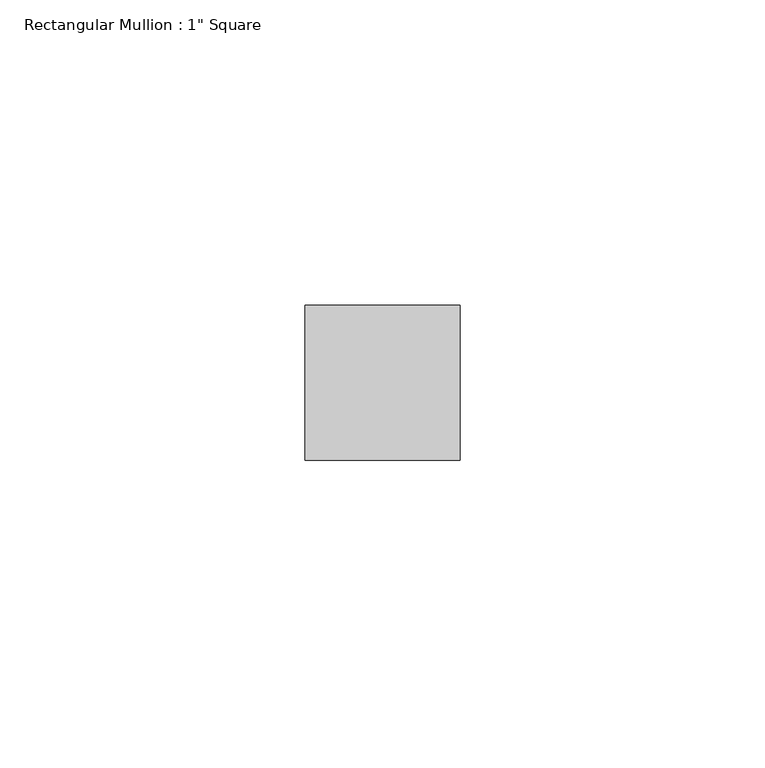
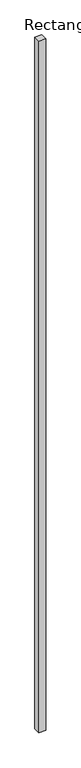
"""IFC4 building model written with IfcOpenShell, lengths in millimetres: member geometry."""

from ifc_helpers import new_model, si_unit, frame, origin, place, context, project, spatial, polyline, outline, extrude, source, transform, mapped, element, save


def member_69438c30(model_context):
    return source(origin(), model_context, "Body", "SweptSolid", [
        extrude(outline(polyline([(12.7, 12.7), (12.7, -12.7), (-12.7, -12.7), (-12.7, 12.7), (12.7, 12.7)])), frame((0.0, 0.0, -2655.1804578), z_axis=(0.0, 0.0, 1.0), x_axis=(1.0, 0.0, 0.0)), (0.0, 0.0, 1.0), 2655.1804578),
    ])


if __name__ == "__main__":
    model = new_model("IFC4")
    model_context = context("Model", 3, world=origin())
    ifc_project = project(units=[si_unit("LENGTHUNIT", "METRE", prefix="MILLI")], contexts=[model_context])
    site = spatial("IfcSite", under=ifc_project)
    building = spatial("IfcBuilding", under=site)
    placement = place(None, origin())
    member_shape = member_69438c30(model_context)
    element("IfcMember", 1, ObjectType="Rectangular Mullion : 1\" Square", at=placement, inside=building, context=model_context, shape_type="MappedRepresentation", body=[
        mapped(member_shape, transform((0.0, 0.0, 0.0), x_axis=(1.0, 0.0, 0.0), y_axis=(0.0, 1.0, 0.0), z_axis=(0.0, 0.0, 1.0))),
    ])
    save(model, "model.ifc")
